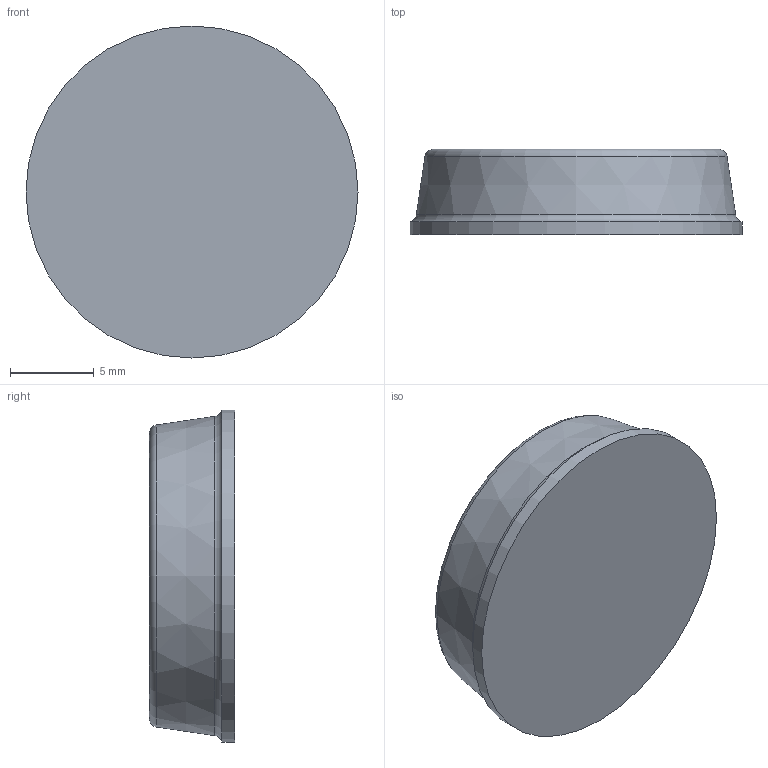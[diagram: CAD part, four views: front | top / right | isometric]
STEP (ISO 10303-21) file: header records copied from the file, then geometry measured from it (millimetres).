
FILE_DESCRIPTION(/* description */ (''),/* implementation_level */ '2;1');
FILE_NAME(/* name */ 'C:/Users/Mark/Downloads/STEP Files/BS41.step',/* time_stamp */ '2020-02-10T13:03:32-05:00',/* author */ (''),/* organization */ (''),/* preprocessor_version */ 'ST-DEVELOPER v18',/* originating_system */ 'Autodesk Translation Framework v8.12.0.6',/* authorisation */ '');
FILE_SCHEMA (('AUTOMOTIVE_DESIGN { 1 0 10303 214 3 1 1 }'));
Length unit declared in the file: inch
Products named in the file (1): BS41
Bounding box: 19.81 x 5.08 x 19.81 mm (x, y, z)
Volume: 1400.5 mm3; surface area: 864 mm2
Topology: 1 solids, 1 shells, 6 faces, 17 edges, 13 vertices
Faces by surface type: plane 2, torus 2, cone 1, cylinder 1
Full cylindrical faces by diameter (mm): 19.812 x1
Entity records: 251 total; most frequent: DIRECTION 46, CARTESIAN_POINT 37, ORIENTED_EDGE 34, AXIS2_PLACEMENT_3D 22, EDGE_CURVE 17, CIRCLE 15, VERTEX_POINT 13, FACE_OUTER_BOUND 6
